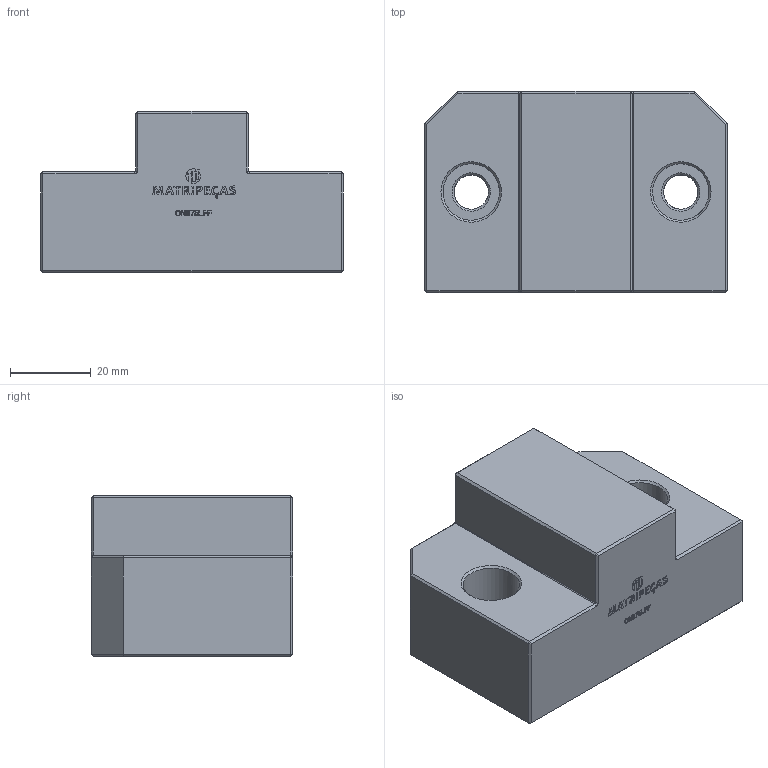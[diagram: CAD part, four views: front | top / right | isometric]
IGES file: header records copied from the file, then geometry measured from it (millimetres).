
Start section: C
Global section: file name: CN075LFF02.igs; native system: By Siemens PLM Incorporated; preprocessor: XPlus GENERIC/IGES 18.0.17; author: Author; organization: Title; date: 20240725.135003; units: millimetre
Bounding box: 75 x 50 x 40 mm (x, y, z)
Volume: 107833.4 mm3; surface area: 17004.3 mm2
Topology: 1 solids, 1 shells, 300 faces, 773 edges, 502 vertices
Faces by surface type: bspline 300
